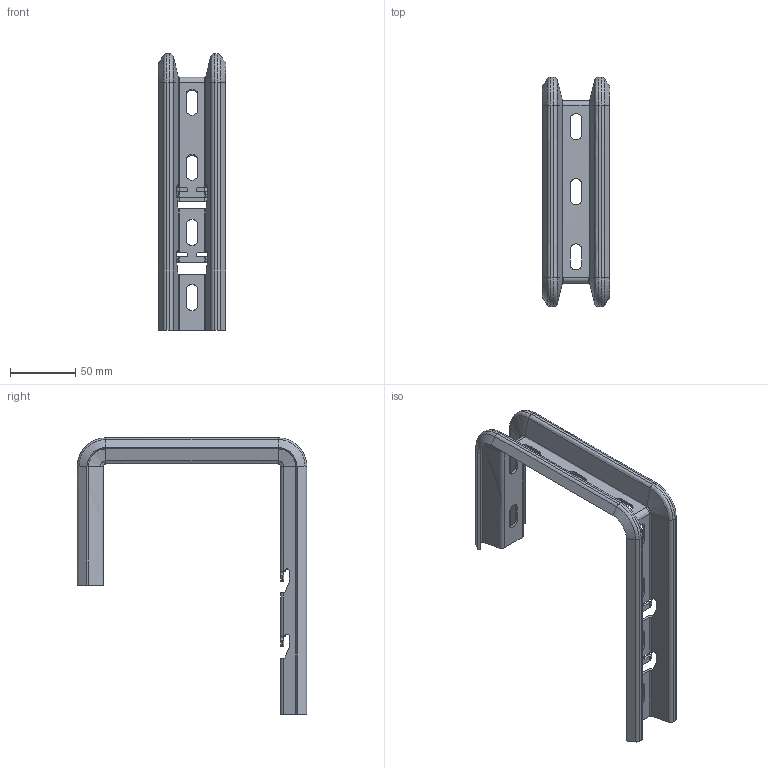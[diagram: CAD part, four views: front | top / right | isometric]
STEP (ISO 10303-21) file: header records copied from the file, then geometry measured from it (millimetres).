
FILE_DESCRIPTION (( 'STEP AP214' ), '1' );
FILE_NAME ('C-SHOT 100.STEP', '2023-06-28T09:48:37', ( '' ), ( '' ), 'SwSTEP 2.0', 'SolidWorks 2022', '' );
FILE_SCHEMA (( 'AUTOMOTIVE_DESIGN' ));
Length unit declared in the file: millimetre
Products named in the file (1): C-SHOT 100
Bounding box: 52 x 176 x 212 mm (x, y, z)
Volume: 69910.3 mm3; surface area: 74318.6 mm2
Topology: 1 solids, 1 shells, 277 faces, 663 edges, 384 vertices
Faces by surface type: plane 108, bspline 101, cylinder 64, cone 4
Entity records: 47311 total; most frequent: CARTESIAN_POINT 41468, ORIENTED_EDGE 1326, DIRECTION 957, EDGE_CURVE 663, VERTEX_POINT 384, LINE 379, VECTOR 379, EDGE_LOOP 295
